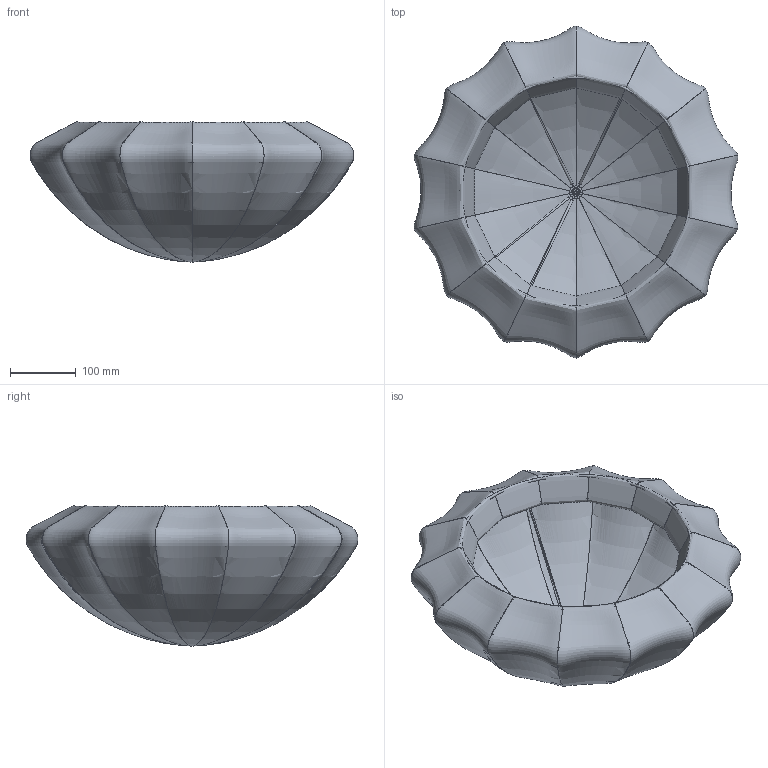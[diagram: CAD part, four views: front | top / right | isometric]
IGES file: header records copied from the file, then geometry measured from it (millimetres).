
Start section: SolidWorks IGES file using analytic representation for surfaces
Global section: file name: X:\PRODUKT\Modele 3D_WWW\_KOLEKCJE WWW\FORM\FORM-M-9673\FORM-M-9673.IGS; native system: SolidWorks 2021; preprocessor: SolidWorks 2021; author: gabriela.tworek; date: 220930.132529; units: millimetre
Bounding box: 493.45 x 505.96 x 213.45 mm (x, y, z)
Surface area: 622674 mm2 (no closed solid volume)
Topology: 0 solids, 0 shells, 171 faces, 676 edges, 702 vertices
Faces by surface type: revolution 142, bspline 29
